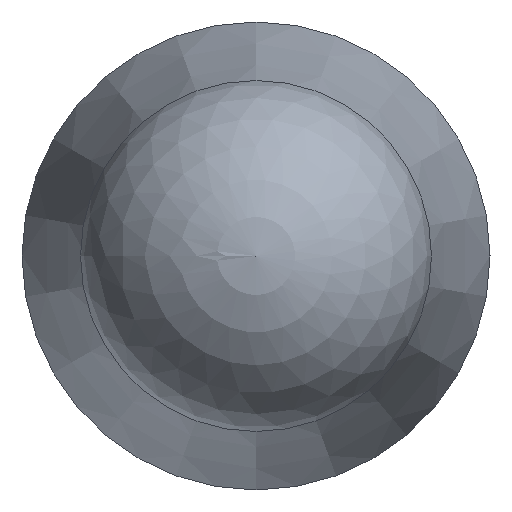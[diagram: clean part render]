
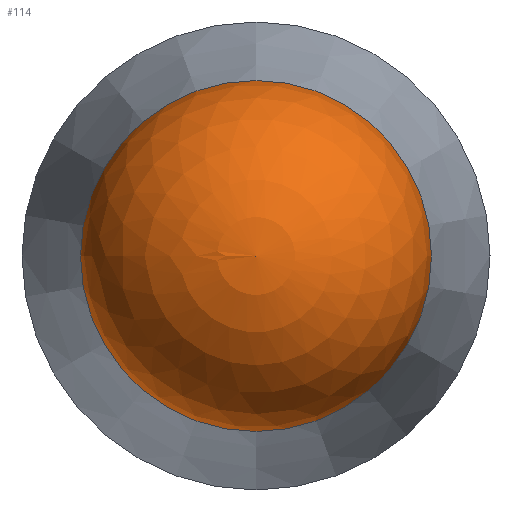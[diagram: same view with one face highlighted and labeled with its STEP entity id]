
A CAD part, left-side view. The second image highlights one B-rep face of the part: STEP entity #114.
In plain terms, the highlighted spherical face has radius 1.5 mm.
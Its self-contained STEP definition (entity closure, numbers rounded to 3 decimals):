
#112=SPHERICAL_SURFACE('',#182,1.5);
#114=ADVANCED_FACE('',(#126),#112,.T.);
#126=FACE_OUTER_BOUND('',#130,.T.);
#130=EDGE_LOOP('',(#144));
#144=ORIENTED_EDGE('',*,*,#165,.F.);
#158=VERTEX_POINT('',#234);
#165=EDGE_CURVE('',#158,#158,#172,.T.);
#172=CIRCLE('',#181,1.5);
#181=AXIS2_PLACEMENT_3D('',#233,#201,#202);
#182=AXIS2_PLACEMENT_3D('',#235,#203,#204);
#201=DIRECTION('',(1.,0.,0.));
#202=DIRECTION('',(0.,0.,-1.));
#203=DIRECTION('',(1.,0.,0.));
#204=DIRECTION('',(0.,1.,0.));
#233=CARTESIAN_POINT('',(7877.038,6111.981,0.));
#234=CARTESIAN_POINT('',(7877.038,6111.981,-1.5));
#235=CARTESIAN_POINT('',(7877.038,6111.981,0.));
